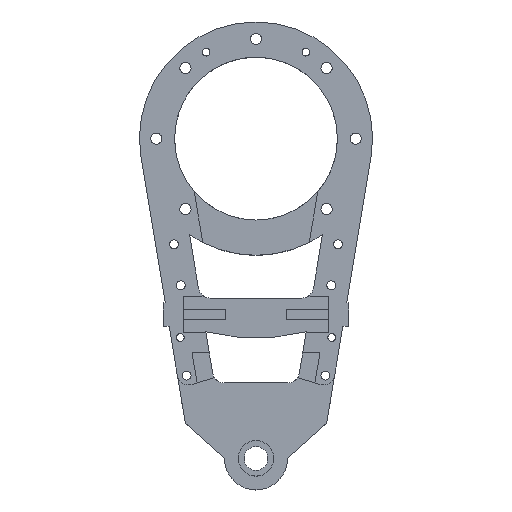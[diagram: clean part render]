
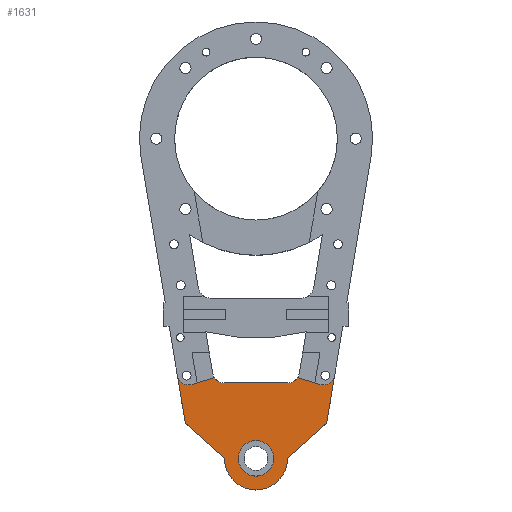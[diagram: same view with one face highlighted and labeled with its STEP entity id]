
A CAD part, top view. The second image highlights one B-rep face of the part: STEP entity #1631.
In plain terms, the highlighted planar face has unit normal (0, 0, 1).
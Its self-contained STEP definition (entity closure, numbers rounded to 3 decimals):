
#47=FACE_BOUND('',#172,.T.);
#91=FACE_OUTER_BOUND('',#171,.T.);
#171=EDGE_LOOP('',(#1103,#1104,#1105,#1106,#1107,#1108,#1109,#1110,#1111,
#1112,#1113,#1114));
#172=EDGE_LOOP('',(#1115));
#295=LINE('',#2357,#463);
#296=LINE('',#2361,#464);
#297=LINE('',#2363,#465);
#298=LINE('',#2367,#466);
#299=LINE('',#2369,#467);
#300=LINE('',#2373,#468);
#301=LINE('',#2376,#469);
#463=VECTOR('',#1883,9.765);
#464=VECTOR('',#1886,20.746);
#465=VECTOR('',#1887,22.401);
#466=VECTOR('',#1890,22.401);
#467=VECTOR('',#1891,20.746);
#468=VECTOR('',#1894,9.765);
#469=VECTOR('',#1897,27.041);
#631=CIRCLE('',#1726,5.);
#632=CIRCLE('',#1727,5.);
#633=CIRCLE('',#1728,13.462);
#634=CIRCLE('',#1729,5.);
#635=CIRCLE('',#1730,5.);
#636=CIRCLE('',#1731,7.547);
#703=VERTEX_POINT('',#2353);
#704=VERTEX_POINT('',#2354);
#705=VERTEX_POINT('',#2356);
#706=VERTEX_POINT('',#2358);
#707=VERTEX_POINT('',#2360);
#708=VERTEX_POINT('',#2362);
#709=VERTEX_POINT('',#2364);
#710=VERTEX_POINT('',#2366);
#711=VERTEX_POINT('',#2368);
#712=VERTEX_POINT('',#2370);
#713=VERTEX_POINT('',#2372);
#714=VERTEX_POINT('',#2374);
#715=VERTEX_POINT('',#2377);
#863=EDGE_CURVE('',#703,#704,#631,.F.);
#864=EDGE_CURVE('',#704,#705,#295,.T.);
#865=EDGE_CURVE('',#705,#706,#632,.F.);
#866=EDGE_CURVE('',#706,#707,#296,.T.);
#867=EDGE_CURVE('',#708,#707,#297,.T.);
#868=EDGE_CURVE('',#709,#708,#633,.F.);
#869=EDGE_CURVE('',#709,#710,#298,.T.);
#870=EDGE_CURVE('',#710,#711,#299,.T.);
#871=EDGE_CURVE('',#711,#712,#634,.F.);
#872=EDGE_CURVE('',#712,#713,#300,.T.);
#873=EDGE_CURVE('',#713,#714,#635,.F.);
#874=EDGE_CURVE('',#703,#714,#301,.T.);
#875=EDGE_CURVE('',#715,#715,#636,.T.);
#1103=ORIENTED_EDGE('',*,*,#863,.T.);
#1104=ORIENTED_EDGE('',*,*,#864,.T.);
#1105=ORIENTED_EDGE('',*,*,#865,.T.);
#1106=ORIENTED_EDGE('',*,*,#866,.T.);
#1107=ORIENTED_EDGE('',*,*,#867,.F.);
#1108=ORIENTED_EDGE('',*,*,#868,.F.);
#1109=ORIENTED_EDGE('',*,*,#869,.T.);
#1110=ORIENTED_EDGE('',*,*,#870,.T.);
#1111=ORIENTED_EDGE('',*,*,#871,.T.);
#1112=ORIENTED_EDGE('',*,*,#872,.T.);
#1113=ORIENTED_EDGE('',*,*,#873,.T.);
#1114=ORIENTED_EDGE('',*,*,#874,.F.);
#1115=ORIENTED_EDGE('',*,*,#875,.F.);
#1583=PLANE('',#1725);
#1631=ADVANCED_FACE('',(#91,#47),#1583,.T.);
#1725=AXIS2_PLACEMENT_3D('',#2352,#1879,#1880);
#1726=AXIS2_PLACEMENT_3D('',#2355,#1881,#1882);
#1727=AXIS2_PLACEMENT_3D('',#2359,#1884,#1885);
#1728=AXIS2_PLACEMENT_3D('',#2365,#1888,#1889);
#1729=AXIS2_PLACEMENT_3D('',#2371,#1892,#1893);
#1730=AXIS2_PLACEMENT_3D('',#2375,#1895,#1896);
#1731=AXIS2_PLACEMENT_3D('',#2378,#1898,#1899);
#1879=DIRECTION('center_axis',(0.,0.,1.));
#1880=DIRECTION('ref_axis',(1.,0.,0.));
#1881=DIRECTION('center_axis',(0.,0.,1.));
#1882=DIRECTION('ref_axis',(1.,0.,0.));
#1883=DIRECTION('',(-0.953,-0.303,0.));
#1884=DIRECTION('center_axis',(0.,0.,1.));
#1885=DIRECTION('ref_axis',(1.,0.,0.));
#1886=DIRECTION('',(0.165,-0.986,0.));
#1887=DIRECTION('',(-0.743,0.67,0.));
#1888=DIRECTION('center_axis',(0.,0.,1.));
#1889=DIRECTION('ref_axis',(1.,0.,0.));
#1890=DIRECTION('',(0.743,0.67,0.));
#1891=DIRECTION('',(0.165,0.986,0.));
#1892=DIRECTION('center_axis',(0.,0.,1.));
#1893=DIRECTION('ref_axis',(1.,0.,0.));
#1894=DIRECTION('',(-0.953,0.303,0.));
#1895=DIRECTION('center_axis',(0.,0.,1.));
#1896=DIRECTION('ref_axis',(1.,0.,0.));
#1897=DIRECTION('',(1.,0.,0.));
#1898=DIRECTION('center_axis',(0.,0.,1.));
#1899=DIRECTION('ref_axis',(1.,0.,0.));
#2352=CARTESIAN_POINT('Origin',(0.,-136.25,5.125));
#2353=CARTESIAN_POINT('',(-13.52,-104.126,5.125));
#2354=CARTESIAN_POINT('',(-17.767,-101.765,5.125));
#2355=CARTESIAN_POINT('Origin',(-13.52,-99.126,5.125));
#2356=CARTESIAN_POINT('',(-27.071,-104.728,5.125));
#2357=CARTESIAN_POINT('',(-17.767,-101.765,5.125));
#2358=CARTESIAN_POINT('',(-33.52,-100.788,5.125));
#2359=CARTESIAN_POINT('Origin',(-28.589,-99.964,5.125));
#2360=CARTESIAN_POINT('',(-30.099,-121.25,5.125));
#2361=CARTESIAN_POINT('',(-33.52,-100.788,5.125));
#2362=CARTESIAN_POINT('',(-13.462,-136.25,5.125));
#2363=CARTESIAN_POINT('',(-13.462,-136.25,5.125));
#2364=CARTESIAN_POINT('',(13.462,-136.25,5.125));
#2365=CARTESIAN_POINT('Origin',(0.,-136.25,5.125));
#2366=CARTESIAN_POINT('',(30.099,-121.25,5.125));
#2367=CARTESIAN_POINT('',(13.462,-136.25,5.125));
#2368=CARTESIAN_POINT('',(33.52,-100.788,5.125));
#2369=CARTESIAN_POINT('',(30.099,-121.25,5.125));
#2370=CARTESIAN_POINT('',(27.071,-104.728,5.125));
#2371=CARTESIAN_POINT('Origin',(28.589,-99.964,5.125));
#2372=CARTESIAN_POINT('',(17.767,-101.765,5.125));
#2373=CARTESIAN_POINT('',(27.071,-104.728,5.125));
#2374=CARTESIAN_POINT('',(13.52,-104.126,5.125));
#2375=CARTESIAN_POINT('Origin',(13.52,-99.126,5.125));
#2376=CARTESIAN_POINT('',(-13.52,-104.126,5.125));
#2377=CARTESIAN_POINT('',(7.547,-136.25,5.125));
#2378=CARTESIAN_POINT('Origin',(0.,-136.25,5.125));
